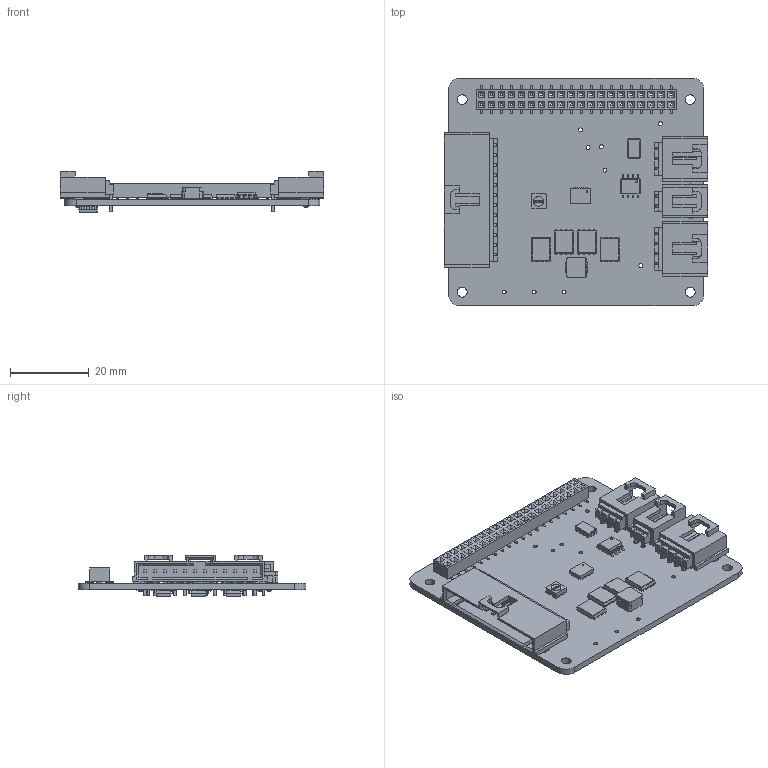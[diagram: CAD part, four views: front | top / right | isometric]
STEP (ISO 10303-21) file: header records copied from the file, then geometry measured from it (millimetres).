
FILE_DESCRIPTION(('KiCad electronic assembly'),'2;1');
FILE_NAME('PI-Power-Board.step','2022-12-10T16:25:16',('Pcbnew'),( 'Kicad'),'Open CASCADE STEP processor 7.5','KiCad to STEP converter' ,'Unknown');
FILE_SCHEMA(('AUTOMOTIVE_DESIGN { 1 0 10303 214 1 1 1 1 }'));
Length unit declared in the file: millimetre
Products named in the file (24): PI-Power-Board 1; 744031001_Download_STP_WE-TPC-3816_rev1; COMPOUND; ECS-5032MV-400-CN-TR; VSON8-DQJ0008A; 705550003; 705550011; 705550001; m20-7812045_asm; SOIC-8_3.9x4.9mm_P1.27mm; SOLID; QFN-28-1EP_4x5mm_P0.5mm_EP2.65x3.65mm; 705550002; IHLP2020CZ; PI-Power-Board PCB
Assembly tree (29 placements, depth 3):
  PI-Power-Board 1
    744031001_Download_STP_WE-TPC-3816_rev1
      COMPOUND
    ECS-5032MV-400-CN-TR
      COMPOUND
    VSON8-DQJ0008A  x4
      COMPOUND
    705550003
      COMPOUND
    705550011
      COMPOUND
    705550001
      COMPOUND
    m20-7812045_asm
      COMPOUND
    SOIC-8_3.9x4.9mm_P1.27mm  x4
      SOLID
    QFN-28-1EP_4x5mm_P0.5mm_EP2.65x3.65mm
      SOLID
    705550002
      COMPOUND
    IHLP2020CZ
      SOLID
    PI-Power-Board PCB
Bounding box: 66.94 x 58 x 10.6 mm (x, y, z)
Volume: 9783.1 mm3; surface area: 16481.8 mm2
Topology: 89 solids, 89 shells, 5092 faces, 13805 edges, 9028 vertices
Faces by surface type: plane 3975, cylinder 923, bspline 151, extrusion 16, cone 16, torus 7, sphere 4
Full cylindrical faces by diameter (mm): 0.1 x2, 0.2 x5, 0.4 x1, 0.6 x4, 1 x9, 1.02 x40, 1.067 x21, 1.6 x1, 1.8 x2, 2.5 x4, 2.51 x1, 2.52 x1, 3.4 x8
Entity records: 285675 total; most frequent: CARTESIAN_POINT 60480, DIRECTION 41145, VECTOR 28906, LINE 28890, ORIENTED_EDGE 22046, PCURVE 22046, DEFINITIONAL_REPRESENTATION 22046, EDGE_CURVE 11023
